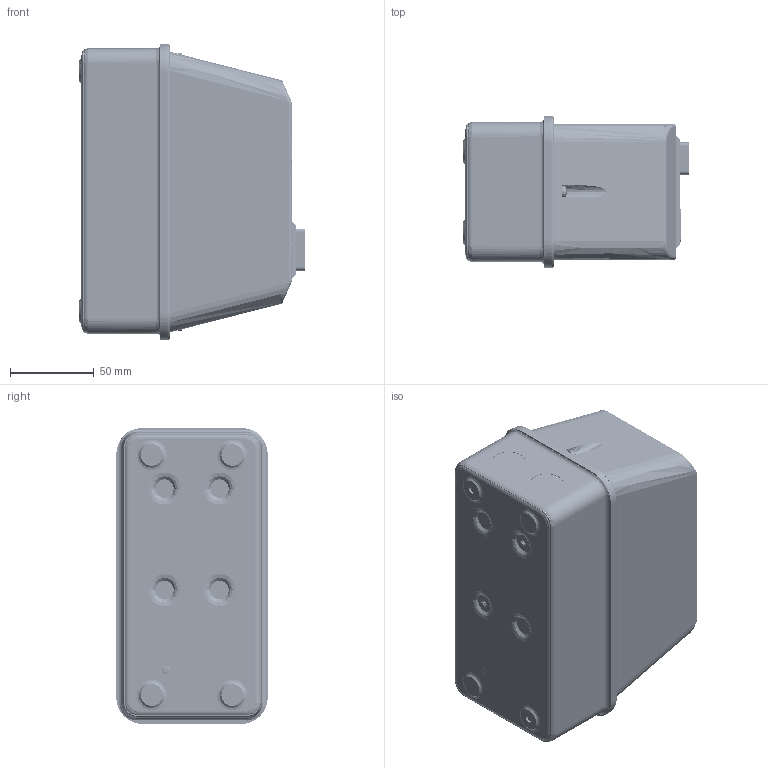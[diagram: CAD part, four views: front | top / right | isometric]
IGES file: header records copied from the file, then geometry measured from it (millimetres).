
Global section: file name: Filename.iges; native system: Open CASCADE 7.3; preprocessor: Open CASCADE IGES processor 7.3; date: 20200810.110351; units: millimetre
Bounding box: 134.3 x 90.2 x 176.2 mm (x, y, z)
Surface area: 203859.5 mm2 (no closed solid volume)
Topology: 0 solids, 0 shells, 1383 faces, 6958 edges, 6958 vertices
Faces by surface type: plane 614, revolution 579, bspline 190
